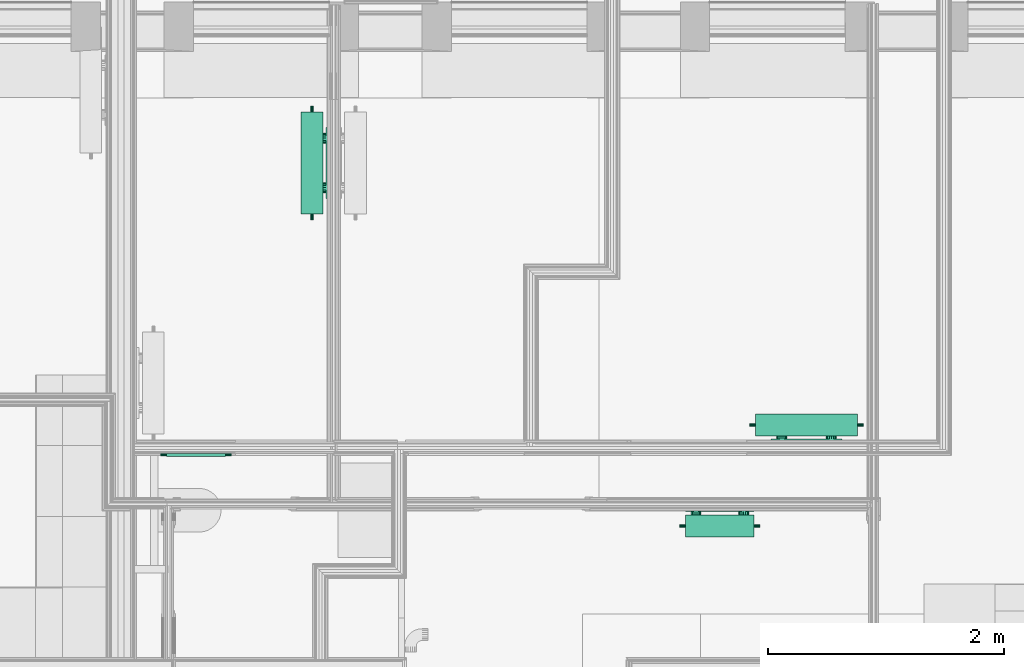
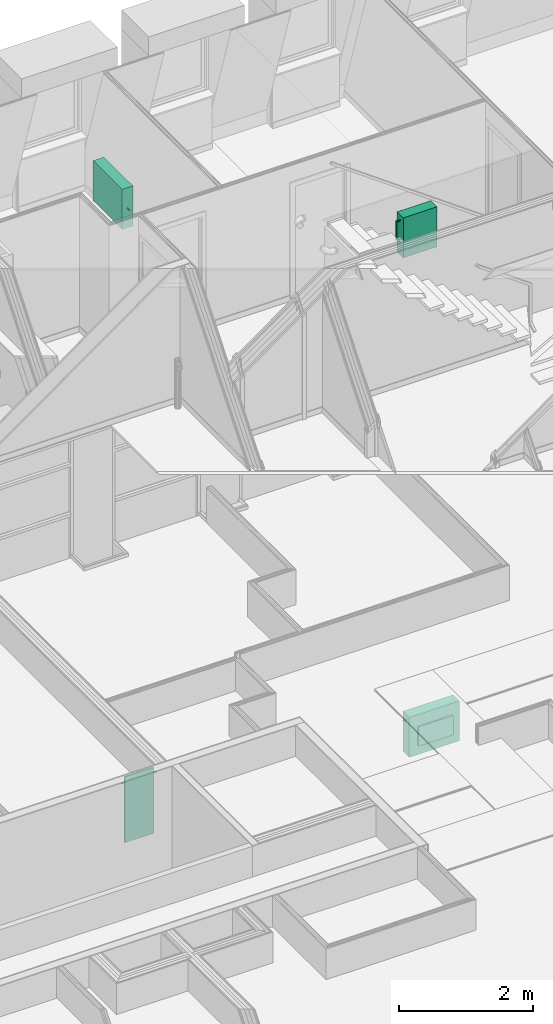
# One storey, part 153 of 169: 4 flow terminals.
"""IFC2X3 building model written with IfcOpenShell, lengths in metres."""

from ifc_helpers import new_model, entity, si_unit, converted_unit, derived_unit, money_unit, direction, frame, origin_with_axes, place, context, subcontext, project, spatial, open_shell, surface_model, material, type_object, element, save


model = new_model("IFC2X3")

# Units and contexts
model_context = context("Model", 3, precision=1e-05, world=origin_with_axes(), true_north=direction((0.0, 1.0)))
body_context = subcontext(model_context, "Body", "Model", "MODEL_VIEW", scale=1.0)
ifc_project = project(units=[si_unit("LENGTHUNIT", "METRE"), si_unit("AREAUNIT", "SQUARE_METRE"), si_unit("VOLUMEUNIT", "CUBIC_METRE"), si_unit("ABSORBEDDOSEUNIT", "GRAY"), si_unit("AMOUNTOFSUBSTANCEUNIT", "MOLE"), si_unit("DOSEEQUIVALENTUNIT", "SIEVERT"), si_unit("ELECTRICCAPACITANCEUNIT", "FARAD"), si_unit("ELECTRICCHARGEUNIT", "COULOMB"), si_unit("ELECTRICCONDUCTANCEUNIT", "SIEMENS"), si_unit("ELECTRICCURRENTUNIT", "AMPERE"), si_unit("ELECTRICRESISTANCEUNIT", "OHM"), si_unit("ELECTRICVOLTAGEUNIT", "VOLT"), si_unit("ENERGYUNIT", "JOULE"), si_unit("FORCEUNIT", "NEWTON"), si_unit("FREQUENCYUNIT", "HERTZ"), si_unit("ILLUMINANCEUNIT", "LUX"), si_unit("INDUCTANCEUNIT", "HENRY"), si_unit("LUMINOUSFLUXUNIT", "LUMEN"), si_unit("LUMINOUSINTENSITYUNIT", "CANDELA"), si_unit("MAGNETICFLUXDENSITYUNIT", "TESLA"), si_unit("MAGNETICFLUXUNIT", "WEBER"), si_unit("MASSUNIT", "GRAM"), converted_unit("PLANEANGLEUNIT", "degree", entity("IfcReal", 0.0174532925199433), si_unit("PLANEANGLEUNIT", "RADIAN"), dimensions=[0, 0, 0, 0, 0, 0, 0]), si_unit("POWERUNIT", "WATT"), si_unit("PRESSUREUNIT", "PASCAL"), si_unit("RADIOACTIVITYUNIT", "BECQUEREL"), si_unit("SOLIDANGLEUNIT", "STERADIAN"), si_unit("THERMODYNAMICTEMPERATUREUNIT", "KELVIN"), si_unit("TIMEUNIT", "SECOND"), derived_unit("ACCELERATIONUNIT", [(si_unit("LENGTHUNIT", "METRE"), 1), (si_unit("TIMEUNIT", "SECOND"), -2)]), derived_unit("ANGULARVELOCITYUNIT", [(converted_unit("PLANEANGLEUNIT", "degree", entity("IfcReal", 0.0174532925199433), si_unit("PLANEANGLEUNIT", "RADIAN"), dimensions=[0, 0, 0, 0, 0, 0, 0]), 1), (si_unit("TIMEUNIT", "SECOND"), -1)]), derived_unit("CURVATUREUNIT", [(converted_unit("PLANEANGLEUNIT", "degree", entity("IfcReal", 0.0174532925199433), si_unit("PLANEANGLEUNIT", "RADIAN"), dimensions=[0, 0, 0, 0, 0, 0, 0]), 1), (si_unit("LENGTHUNIT", "METRE"), -1)]), derived_unit("DYNAMICVISCOSITYUNIT", [(si_unit("PRESSUREUNIT", "PASCAL"), 1), (si_unit("TIMEUNIT", "SECOND"), 1)]), derived_unit("HEATFLUXDENSITYUNIT", [(si_unit("POWERUNIT", "WATT"), 1), (si_unit("LENGTHUNIT", "METRE"), -2)]), derived_unit("HEATINGVALUEUNIT", [(si_unit("ENERGYUNIT", "JOULE"), 1), (si_unit("MASSUNIT", "GRAM"), -1)]), derived_unit("INTEGERCOUNTRATEUNIT", [(si_unit("TIMEUNIT", "SECOND"), -1)]), derived_unit("IONCONCENTRATIONUNIT", [(si_unit("MASSUNIT", "GRAM"), 1), (si_unit("VOLUMEUNIT", "CUBIC_METRE"), -1)]), derived_unit("ISOTHERMALMOISTURECAPACITYUNIT", [(si_unit("VOLUMEUNIT", "CUBIC_METRE"), 1), (si_unit("MASSUNIT", "GRAM"), -1)]), derived_unit("KINEMATICVISCOSITYUNIT", [(si_unit("AREAUNIT", "SQUARE_METRE"), 1), (si_unit("TIMEUNIT", "SECOND"), -1)]), derived_unit("LINEARFORCEUNIT", [(si_unit("FORCEUNIT", "NEWTON"), 1), (si_unit("LENGTHUNIT", "METRE"), -1)]), derived_unit("LINEARMOMENTUNIT", [(si_unit("FORCEUNIT", "NEWTON"), 1), (si_unit("LENGTHUNIT", "METRE"), -1)]), derived_unit("LINEARSTIFFNESSUNIT", [(si_unit("FORCEUNIT", "NEWTON"), 1), (si_unit("LENGTHUNIT", "METRE"), -1)]), derived_unit("LINEARVELOCITYUNIT", [(si_unit("LENGTHUNIT", "METRE"), 1), (si_unit("TIMEUNIT", "SECOND"), -1)]), derived_unit("LUMINOUSINTENSITYDISTRIBUTIONUNIT", [(si_unit("LUMINOUSINTENSITYUNIT", "CANDELA"), 1), (si_unit("LUMINOUSFLUXUNIT", "LUMEN"), -1)]), derived_unit("MASSDENSITYUNIT", [(si_unit("MASSUNIT", "GRAM"), 1), (si_unit("VOLUMEUNIT", "CUBIC_METRE"), -1)]), derived_unit("MASSFLOWRATEUNIT", [(si_unit("MASSUNIT", "GRAM"), 1), (si_unit("TIMEUNIT", "SECOND"), -1)]), derived_unit("MASSPERLENGTHUNIT", [(si_unit("MASSUNIT", "GRAM"), 1), (si_unit("LENGTHUNIT", "METRE"), -1)]), derived_unit("MODULUSOFELASTICITYUNIT", [(si_unit("FORCEUNIT", "NEWTON"), 1), (si_unit("AREAUNIT", "SQUARE_METRE"), -1)]), derived_unit("MODULUSOFLINEARSUBGRADEREACTIONUNIT", [(si_unit("FORCEUNIT", "NEWTON"), 1), (si_unit("LENGTHUNIT", "METRE"), -2)]), derived_unit("MODULUSOFROTATIONALSUBGRADEREACTIONUNIT", [(si_unit("FORCEUNIT", "NEWTON"), 1), (si_unit("LENGTHUNIT", "METRE"), 1)]), derived_unit("MODULUSOFSUBGRADEREACTIONUNIT", [(si_unit("FORCEUNIT", "NEWTON"), 1), (si_unit("VOLUMEUNIT", "CUBIC_METRE"), -1)]), derived_unit("MOISTUREDIFFUSIVITYUNIT", [(si_unit("VOLUMEUNIT", "CUBIC_METRE"), 1), (si_unit("TIMEUNIT", "SECOND"), -1)]), derived_unit("MOLECULARWEIGHTUNIT", [(si_unit("MASSUNIT", "GRAM"), 1), (si_unit("AMOUNTOFSUBSTANCEUNIT", "MOLE"), -1)]), derived_unit("PLANARFORCEUNIT", [(si_unit("FORCEUNIT", "NEWTON"), 1), (si_unit("LENGTHUNIT", "METRE"), -2)]), derived_unit("ROTATIONALFREQUENCYUNIT", [(si_unit("TIMEUNIT", "SECOND"), -1)]), derived_unit("ROTATIONALMASSUNIT", [(si_unit("MASSUNIT", "GRAM"), 1), (si_unit("LENGTHUNIT", "METRE"), 2)]), derived_unit("ROTATIONALSTIFFNESSUNIT", [(si_unit("FORCEUNIT", "NEWTON"), 1), (si_unit("LENGTHUNIT", "METRE"), 1), (converted_unit("PLANEANGLEUNIT", "degree", entity("IfcReal", 0.0174532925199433), si_unit("PLANEANGLEUNIT", "RADIAN"), dimensions=[0, 0, 0, 0, 0, 0, 0]), -1)]), derived_unit("SECTIONAREAINTEGRALUNIT", [(si_unit("LENGTHUNIT", "METRE"), 5)]), derived_unit("SECTIONMODULUSUNIT", [(si_unit("LENGTHUNIT", "METRE"), 3)]), derived_unit("SHEARMODULUSUNIT", [(si_unit("FORCEUNIT", "NEWTON"), 1), (si_unit("AREAUNIT", "SQUARE_METRE"), -1)]), derived_unit("SOUNDPOWERUNIT", [(si_unit("ENERGYUNIT", "JOULE"), 1), (si_unit("TIMEUNIT", "SECOND"), -1)]), derived_unit("SPECIFICHEATCAPACITYUNIT", [(si_unit("FORCEUNIT", "NEWTON"), 1), (si_unit("MASSUNIT", "GRAM"), -1), (si_unit("THERMODYNAMICTEMPERATUREUNIT", "KELVIN"), -1)]), derived_unit("TEMPERATUREGRADIENTUNIT", [(si_unit("THERMODYNAMICTEMPERATUREUNIT", "KELVIN"), 1), (si_unit("LENGTHUNIT", "METRE"), -1)]), derived_unit("THERMALADMITTANCEUNIT", [(si_unit("POWERUNIT", "WATT"), 1), (si_unit("AREAUNIT", "SQUARE_METRE"), -1), (si_unit("THERMODYNAMICTEMPERATUREUNIT", "KELVIN"), -1)]), derived_unit("THERMALCONDUCTANCEUNIT", [(si_unit("POWERUNIT", "WATT"), 1), (si_unit("LENGTHUNIT", "METRE"), -1), (si_unit("THERMODYNAMICTEMPERATUREUNIT", "KELVIN"), -1)]), derived_unit("THERMALEXPANSIONCOEFFICIENTUNIT", [(si_unit("THERMODYNAMICTEMPERATUREUNIT", "KELVIN"), -1)]), derived_unit("THERMALRESISTANCEUNIT", [(si_unit("AREAUNIT", "SQUARE_METRE"), 1), (si_unit("POWERUNIT", "WATT"), -1)]), derived_unit("THERMALTRANSMITTANCEUNIT", [(si_unit("POWERUNIT", "WATT"), 1), (si_unit("AREAUNIT", "SQUARE_METRE"), -1), (si_unit("THERMODYNAMICTEMPERATUREUNIT", "KELVIN"), -1)]), derived_unit("TORQUEUNIT", [(si_unit("FORCEUNIT", "NEWTON"), 1), (si_unit("LENGTHUNIT", "METRE"), 1)]), derived_unit("VAPORPERMEABILITYUNIT", [(si_unit("MASSUNIT", "GRAM"), 1), (si_unit("TIMEUNIT", "SECOND"), -1)]), derived_unit("VOLUMETRICFLOWRATEUNIT", [(si_unit("VOLUMEUNIT", "CUBIC_METRE"), 1), (si_unit("TIMEUNIT", "SECOND"), -1)]), derived_unit("WARPINGCONSTANTUNIT", [(si_unit("LENGTHUNIT", "METRE"), 6)]), derived_unit("WARPINGMOMENTUNIT", [(si_unit("FORCEUNIT", "NEWTON"), 1), (si_unit("LENGTHUNIT", "METRE"), 2)]), money_unit("GBP")], contexts=[model_context])

# Site, building, storey, space
site_placement = place(None, origin_with_axes())
site = spatial("IfcSite", under=ifc_project, at=site_placement, Name="Site", CompositionType="ELEMENT")
building_placement = place(site_placement, origin_with_axes())
building = spatial("IfcBuilding", under=site, at=building_placement, Name="Building01", CompositionType="ELEMENT")
storey_placement = place(building_placement, frame((0.0, 0.0, 5.15), z_axis=(0.0, 0.0, 1.0), x_axis=(1.0, 0.0, 0.0)))
storey = spatial("IfcBuildingStorey", under=building, at=storey_placement, Name="1F", CompositionType="ELEMENT", Elevation=5.15)
space_1_placement = place(storey_placement, frame((15.83, 8.82, 0.017975), z_axis=(0.0, 0.0, 1.0), x_axis=(0.0, -1.0, 0.0)))
space_1 = spatial("IfcSpace", under=storey, at=space_1_placement, Name="02", CompositionType="ELEMENT", InteriorOrExteriorSpace="NOTDEFINED")

# Flow terminal
ifc_material = material(Name="M_BSUK_Ventilation")
space_heater_type_1 = type_object("IfcSpaceHeaterType", Name="M-BmvRadiatorpanel-Panel", PredefinedType="NOTDEFINED")
flow_terminal_1_placement = place(storey_placement, frame((21.844284, 10.81025, 0.665), z_axis=(0.0, 0.0, 1.0), x_axis=(-1.0, 0.0, 0.0)))
element("IfcFlowTerminal", 1, at=flow_terminal_1_placement, inside=space_1, type_object=space_heater_type_1, material=ifc_material, Name="M-BmvRadiatorpanel-Panel", ObjectType="M-BmvRadiatorpanel-Panel", context=body_context, shape_type="SurfaceModel", body=[
    surface_model("IfcShellBasedSurfaceModel", [(0.865, -0.0925, 0.365), (0.865, 0.0925, 0.365), (0.0, 0.0925, 0.365), (0.0, -0.0925, 0.365), (0.865, -0.0925, -0.365), (0.865, 0.0925, -0.365), (0.0, -0.0925, -0.365), (0.0, 0.0925, -0.365), (0.1325, 0.12025, 0.175), (0.7325, 0.12025, 0.175), (0.7325, 0.14525, 0.175), (0.1325, 0.14525, 0.175), (0.7325, 0.14525, -0.175), (0.1325, 0.14525, -0.175), (0.7325, 0.12025, -0.175), (0.1325, 0.12025, -0.175), (0.2225, 0.0925, 0.0775), (0.2225, 0.12025, 0.0775), (0.239721, 0.12025, 0.080925), (0.239721, 0.0925, 0.080925), (0.25432, 0.12025, 0.09068), (0.25432, 0.0925, 0.09068), (0.264075, 0.12025, 0.105279), (0.264075, 0.0925, 0.105279), (0.2675, 0.12025, 0.1225), (0.2675, 0.0925, 0.1225), (0.264075, 0.12025, 0.139721), (0.264075, 0.0925, 0.139721), (0.25432, 0.12025, 0.15432), (0.25432, 0.0925, 0.15432), (0.239721, 0.12025, 0.164075), (0.239721, 0.0925, 0.164075), (0.2225, 0.12025, 0.1675), (0.2225, 0.0925, 0.1675), (0.205279, 0.12025, 0.164075), (0.205279, 0.0925, 0.164075), (0.19068, 0.12025, 0.15432), (0.19068, 0.0925, 0.15432), (0.180925, 0.12025, 0.139721), (0.180925, 0.0925, 0.139721), (0.1775, 0.12025, 0.1225), (0.1775, 0.0925, 0.1225), (0.180925, 0.12025, 0.105279), (0.180925, 0.0925, 0.105279), (0.19068, 0.12025, 0.09068), (0.19068, 0.0925, 0.09068), (0.205279, 0.12025, 0.080925), (0.205279, 0.0925, 0.080925), (0.6425, 0.0925, 0.0775), (0.6425, 0.12025, 0.0775), (0.659721, 0.12025, 0.080925), (0.659721, 0.0925, 0.080925), (0.67432, 0.12025, 0.09068), (0.67432, 0.0925, 0.09068), (0.684075, 0.12025, 0.105279), (0.684075, 0.0925, 0.105279), (0.6875, 0.12025, 0.1225), (0.6875, 0.0925, 0.1225), (0.684075, 0.12025, 0.139721), (0.684075, 0.0925, 0.139721), (0.67432, 0.12025, 0.15432), (0.67432, 0.0925, 0.15432), (0.659721, 0.12025, 0.164075), (0.659721, 0.0925, 0.164075), (0.6425, 0.12025, 0.1675), (0.6425, 0.0925, 0.1675), (0.625279, 0.12025, 0.164075), (0.625279, 0.0925, 0.164075), (0.61068, 0.12025, 0.15432), (0.61068, 0.0925, 0.15432), (0.600925, 0.12025, 0.139721), (0.600925, 0.0925, 0.139721), (0.5975, 0.12025, 0.1225), (0.5975, 0.0925, 0.1225), (0.600925, 0.12025, 0.105279), (0.600925, 0.0925, 0.105279), (0.61068, 0.12025, 0.09068), (0.61068, 0.0925, 0.09068), (0.625279, 0.12025, 0.080925), (0.625279, 0.0925, 0.080925), (-0.05, 0.0, -0.0225), (0.0, 0.0, -0.0225), (0.0, -0.004784, -0.021548), (-0.05, -0.004784, -0.021548), (0.0, -0.008839, -0.018839), (-0.05, -0.008839, -0.018839), (0.0, -0.011548, -0.014784), (-0.05, -0.011548, -0.014784), (0.0, -0.0125, -0.01), (-0.05, -0.0125, -0.01), (0.0, -0.011548, -0.005216), (-0.05, -0.011548, -0.005216), (0.0, -0.008839, -0.001161), (-0.05, -0.008839, -0.001161), (0.0, -0.004784, 0.001548), (-0.05, -0.004784, 0.001548), (0.0, 0.0, 0.0025), (-0.05, 0.0, 0.0025), (0.0, 0.004784, 0.001548), (-0.05, 0.004784, 0.001548), (0.0, 0.008839, -0.001161), (-0.05, 0.008839, -0.001161), (0.0, 0.011548, -0.005216), (-0.05, 0.011548, -0.005216), (0.0, 0.0125, -0.01), (-0.05, 0.0125, -0.01), (0.0, 0.011548, -0.014784), (-0.05, 0.011548, -0.014784), (0.0, 0.008839, -0.018839), (-0.05, 0.008839, -0.018839), (0.0, 0.004784, -0.021548), (-0.05, 0.004784, -0.021548), (0.915, 0.0, 0.2525), (0.865, 0.0, 0.2525), (0.865, 0.004784, 0.253452), (0.915, 0.004784, 0.253452), (0.865, 0.008839, 0.256161), (0.915, 0.008839, 0.256161), (0.865, 0.011548, 0.260216), (0.915, 0.011548, 0.260216), (0.865, 0.0125, 0.265), (0.915, 0.0125, 0.265), (0.865, 0.011548, 0.269784), (0.915, 0.011548, 0.269784), (0.865, 0.008839, 0.273839), (0.915, 0.008839, 0.273839), (0.865, 0.004784, 0.276548), (0.915, 0.004784, 0.276548), (0.865, 0.0, 0.2775), (0.915, 0.0, 0.2775), (0.865, -0.004784, 0.276548), (0.915, -0.004784, 0.276548), (0.865, -0.008839, 0.273839), (0.915, -0.008839, 0.273839), (0.865, -0.011548, 0.269784), (0.915, -0.011548, 0.269784), (0.865, -0.0125, 0.265), (0.915, -0.0125, 0.265), (0.865, -0.011548, 0.260216), (0.915, -0.011548, 0.260216), (0.865, -0.008839, 0.256161), (0.915, -0.008839, 0.256161), (0.865, -0.004784, 0.253452), (0.915, -0.004784, 0.253452)], [open_shell([[[0, 1, 2, 3]], [[4, 5, 1, 0]], [[6, 7, 5, 4]], [[3, 2, 7, 6]], [[1, 5, 7, 2]], [[3, 6, 4, 0]], [[8, 9, 10, 11]], [[11, 10, 12, 13]], [[13, 12, 14, 15]], [[15, 14, 9, 8]], [[9, 14, 12, 10]], [[11, 13, 15, 8]], [[16, 17, 18, 19]], [[19, 18, 20, 21]], [[21, 20, 22, 23]], [[23, 22, 24, 25]], [[25, 24, 26, 27]], [[27, 26, 28, 29]], [[29, 28, 30, 31]], [[31, 30, 32, 33]], [[33, 32, 34, 35]], [[35, 34, 36, 37]], [[37, 36, 38, 39]], [[39, 38, 40, 41]], [[41, 40, 42, 43]], [[43, 42, 44, 45]], [[45, 44, 46, 47]], [[47, 46, 17, 16]], [[48, 49, 50, 51]], [[51, 50, 52, 53]], [[53, 52, 54, 55]], [[55, 54, 56, 57]], [[57, 56, 58, 59]], [[59, 58, 60, 61]], [[61, 60, 62, 63]], [[63, 62, 64, 65]], [[65, 64, 66, 67]], [[67, 66, 68, 69]], [[69, 68, 70, 71]], [[71, 70, 72, 73]], [[73, 72, 74, 75]], [[75, 74, 76, 77]], [[77, 76, 78, 79]], [[79, 78, 49, 48]], [[80, 81, 82, 83]], [[83, 82, 84, 85]], [[85, 84, 86, 87]], [[87, 86, 88, 89]], [[89, 88, 90, 91]], [[91, 90, 92, 93]], [[93, 92, 94, 95]], [[95, 94, 96, 97]], [[97, 96, 98, 99]], [[99, 98, 100, 101]], [[101, 100, 102, 103]], [[103, 102, 104, 105]], [[105, 104, 106, 107]], [[107, 106, 108, 109]], [[109, 108, 110, 111]], [[111, 110, 81, 80]], [[112, 113, 114, 115]], [[115, 114, 116, 117]], [[117, 116, 118, 119]], [[119, 118, 120, 121]], [[121, 120, 122, 123]], [[123, 122, 124, 125]], [[125, 124, 126, 127]], [[127, 126, 128, 129]], [[129, 128, 130, 131]], [[131, 130, 132, 133]], [[133, 132, 134, 135]], [[135, 134, 136, 137]], [[137, 136, 138, 139]], [[139, 138, 140, 141]], [[141, 140, 142, 143]], [[143, 142, 113, 112]]])]),
])

# Space
space_2_placement = place(storey_placement, frame((16.03844, 8.82, 9.86), z_axis=(0.0, 0.0, 1.0), x_axis=(0.0, -1.0, 0.0)))
space_2 = spatial("IfcSpace", under=storey, at=space_2_placement, Name="23", CompositionType="ELEMENT", InteriorOrExteriorSpace="NOTDEFINED")

# Flow terminals
flow_terminal_2_placement = place(storey_placement, frame((17.214726, 12.601764, 10.495), z_axis=(0.0, 0.0, 1.0), x_axis=(0.0, -1.0, 0.0)))
element("IfcFlowTerminal", 2, at=flow_terminal_2_placement, inside=space_2, type_object=space_heater_type_1, material=ifc_material, Name="M-BmvRadiatorpanel-Panel", ObjectType="M-BmvRadiatorpanel-Panel", context=body_context, shape_type="SurfaceModel", body=[
    surface_model("IfcShellBasedSurfaceModel", [(-0.865, -0.0925, 0.365), (-0.865, 0.0925, 0.365), (0.0, 0.0925, 0.365), (0.0, -0.0925, 0.365), (-0.865, -0.0925, -0.365), (-0.865, 0.0925, -0.365), (0.0, -0.0925, -0.365), (0.0, 0.0925, -0.365), (-0.1325, 0.12025, 0.175), (-0.7325, 0.12025, 0.175), (-0.7325, 0.14525, 0.175), (-0.1325, 0.14525, 0.175), (-0.7325, 0.14525, -0.175), (-0.1325, 0.14525, -0.175), (-0.7325, 0.12025, -0.175), (-0.1325, 0.12025, -0.175), (-0.2225, 0.0925, 0.0775), (-0.2225, 0.12025, 0.0775), (-0.205279, 0.12025, 0.080925), (-0.205279, 0.0925, 0.080925), (-0.19068, 0.12025, 0.09068), (-0.19068, 0.0925, 0.09068), (-0.180925, 0.12025, 0.105279), (-0.180925, 0.0925, 0.105279), (-0.1775, 0.12025, 0.1225), (-0.1775, 0.0925, 0.1225), (-0.180925, 0.12025, 0.139721), (-0.180925, 0.0925, 0.139721), (-0.19068, 0.12025, 0.15432), (-0.19068, 0.0925, 0.15432), (-0.205279, 0.12025, 0.164075), (-0.205279, 0.0925, 0.164075), (-0.2225, 0.12025, 0.1675), (-0.2225, 0.0925, 0.1675), (-0.239721, 0.12025, 0.164075), (-0.239721, 0.0925, 0.164075), (-0.25432, 0.12025, 0.15432), (-0.25432, 0.0925, 0.15432), (-0.264075, 0.12025, 0.139721), (-0.264075, 0.0925, 0.139721), (-0.2675, 0.12025, 0.1225), (-0.2675, 0.0925, 0.1225), (-0.264075, 0.12025, 0.105279), (-0.264075, 0.0925, 0.105279), (-0.25432, 0.12025, 0.09068), (-0.25432, 0.0925, 0.09068), (-0.239721, 0.12025, 0.080925), (-0.239721, 0.0925, 0.080925), (-0.6425, 0.0925, 0.0775), (-0.6425, 0.12025, 0.0775), (-0.625279, 0.12025, 0.080925), (-0.625279, 0.0925, 0.080925), (-0.61068, 0.12025, 0.09068), (-0.61068, 0.0925, 0.09068), (-0.600925, 0.12025, 0.105279), (-0.600925, 0.0925, 0.105279), (-0.5975, 0.12025, 0.1225), (-0.5975, 0.0925, 0.1225), (-0.600925, 0.12025, 0.139721), (-0.600925, 0.0925, 0.139721), (-0.61068, 0.12025, 0.15432), (-0.61068, 0.0925, 0.15432), (-0.625279, 0.12025, 0.164075), (-0.625279, 0.0925, 0.164075), (-0.6425, 0.12025, 0.1675), (-0.6425, 0.0925, 0.1675), (-0.659721, 0.12025, 0.164075), (-0.659721, 0.0925, 0.164075), (-0.67432, 0.12025, 0.15432), (-0.67432, 0.0925, 0.15432), (-0.684075, 0.12025, 0.139721), (-0.684075, 0.0925, 0.139721), (-0.6875, 0.12025, 0.1225), (-0.6875, 0.0925, 0.1225), (-0.684075, 0.12025, 0.105279), (-0.684075, 0.0925, 0.105279), (-0.67432, 0.12025, 0.09068), (-0.67432, 0.0925, 0.09068), (-0.659721, 0.12025, 0.080925), (-0.659721, 0.0925, 0.080925), (0.05, 0.0, -0.0225), (0.0, 0.0, -0.0225), (0.0, 0.004784, -0.021548), (0.05, 0.004784, -0.021548), (0.0, 0.008839, -0.018839), (0.05, 0.008839, -0.018839), (0.0, 0.011548, -0.014784), (0.05, 0.011548, -0.014784), (0.0, 0.0125, -0.01), (0.05, 0.0125, -0.01), (0.0, 0.011548, -0.005216), (0.05, 0.011548, -0.005216), (0.0, 0.008839, -0.001161), (0.05, 0.008839, -0.001161), (0.0, 0.004784, 0.001548), (0.05, 0.004784, 0.001548), (0.0, 0.0, 0.0025), (0.05, 0.0, 0.0025), (0.0, -0.004784, 0.001548), (0.05, -0.004784, 0.001548), (0.0, -0.008839, -0.001161), (0.05, -0.008839, -0.001161), (0.0, -0.011548, -0.005216), (0.05, -0.011548, -0.005216), (0.0, -0.0125, -0.01), (0.05, -0.0125, -0.01), (0.0, -0.011548, -0.014784), (0.05, -0.011548, -0.014784), (0.0, -0.008839, -0.018839), (0.05, -0.008839, -0.018839), (0.0, -0.004784, -0.021548), (0.05, -0.004784, -0.021548), (-0.915, 0.0, 0.2525), (-0.865, 0.0, 0.2525), (-0.865, -0.004784, 0.253452), (-0.915, -0.004784, 0.253452), (-0.865, -0.008839, 0.256161), (-0.915, -0.008839, 0.256161), (-0.865, -0.011548, 0.260216), (-0.915, -0.011548, 0.260216), (-0.865, -0.0125, 0.265), (-0.915, -0.0125, 0.265), (-0.865, -0.011548, 0.269784), (-0.915, -0.011548, 0.269784), (-0.865, -0.008839, 0.273839), (-0.915, -0.008839, 0.273839), (-0.865, -0.004784, 0.276548), (-0.915, -0.004784, 0.276548), (-0.865, 0.0, 0.2775), (-0.915, 0.0, 0.2775), (-0.865, 0.004784, 0.276548), (-0.915, 0.004784, 0.276548), (-0.865, 0.008839, 0.273839), (-0.915, 0.008839, 0.273839), (-0.865, 0.011548, 0.269784), (-0.915, 0.011548, 0.269784), (-0.865, 0.0125, 0.265), (-0.915, 0.0125, 0.265), (-0.865, 0.011548, 0.260216), (-0.915, 0.011548, 0.260216), (-0.865, 0.008839, 0.256161), (-0.915, 0.008839, 0.256161), (-0.865, 0.004784, 0.253452), (-0.915, 0.004784, 0.253452)], [open_shell([[[0, 1, 2, 3]], [[4, 5, 1, 0]], [[6, 7, 5, 4]], [[3, 2, 7, 6]], [[1, 5, 7, 2]], [[3, 6, 4, 0]], [[8, 9, 10, 11]], [[11, 10, 12, 13]], [[13, 12, 14, 15]], [[15, 14, 9, 8]], [[9, 14, 12, 10]], [[11, 13, 15, 8]], [[16, 17, 18, 19]], [[19, 18, 20, 21]], [[21, 20, 22, 23]], [[23, 22, 24, 25]], [[25, 24, 26, 27]], [[27, 26, 28, 29]], [[29, 28, 30, 31]], [[31, 30, 32, 33]], [[33, 32, 34, 35]], [[35, 34, 36, 37]], [[37, 36, 38, 39]], [[39, 38, 40, 41]], [[41, 40, 42, 43]], [[43, 42, 44, 45]], [[45, 44, 46, 47]], [[47, 46, 17, 16]], [[48, 49, 50, 51]], [[51, 50, 52, 53]], [[53, 52, 54, 55]], [[55, 54, 56, 57]], [[57, 56, 58, 59]], [[59, 58, 60, 61]], [[61, 60, 62, 63]], [[63, 62, 64, 65]], [[65, 64, 66, 67]], [[67, 66, 68, 69]], [[69, 68, 70, 71]], [[71, 70, 72, 73]], [[73, 72, 74, 75]], [[75, 74, 76, 77]], [[77, 76, 78, 79]], [[79, 78, 49, 48]], [[80, 81, 82, 83]], [[83, 82, 84, 85]], [[85, 84, 86, 87]], [[87, 86, 88, 89]], [[89, 88, 90, 91]], [[91, 90, 92, 93]], [[93, 92, 94, 95]], [[95, 94, 96, 97]], [[97, 96, 98, 99]], [[99, 98, 100, 101]], [[101, 100, 102, 103]], [[103, 102, 104, 105]], [[105, 104, 106, 107]], [[107, 106, 108, 109]], [[109, 108, 110, 111]], [[111, 110, 81, 80]], [[112, 113, 114, 115]], [[115, 114, 116, 117]], [[117, 116, 118, 119]], [[119, 118, 120, 121]], [[121, 120, 122, 123]], [[123, 122, 124, 125]], [[125, 124, 126, 127]], [[127, 126, 128, 129]], [[129, 128, 130, 131]], [[131, 130, 132, 133]], [[133, 132, 134, 135]], [[135, 134, 136, 137]], [[137, 136, 138, 139]], [[139, 138, 140, 141]], [[141, 140, 142, 143]], [[143, 142, 113, 112]]])]),
])
flow_terminal_3_placement = place(storey_placement, frame((20.965544, 9.954689, 10.495), z_axis=(0.0, 0.0, 1.0), x_axis=(1.0, 0.0, 0.0)))
element("IfcFlowTerminal", 3, at=flow_terminal_3_placement, inside=space_2, type_object=space_heater_type_1, material=ifc_material, Name="M-BmvRadiatorpanel-Panel", ObjectType="M-BmvRadiatorpanel-Panel", context=body_context, shape_type="SurfaceModel", body=[
    surface_model("IfcShellBasedSurfaceModel", [(-0.58, -0.0925, 0.365), (-0.58, 0.0925, 0.365), (0.0, 0.0925, 0.365), (0.0, -0.0925, 0.365), (-0.58, -0.0925, -0.365), (-0.58, 0.0925, -0.365), (0.0, -0.0925, -0.365), (0.0, 0.0925, -0.365), (0.0, 0.12025, 0.175), (-0.58, 0.12025, 0.175), (-0.58, 0.14525, 0.175), (0.0, 0.14525, 0.175), (-0.58, 0.14525, -0.175), (0.0, 0.14525, -0.175), (-0.58, 0.12025, -0.175), (0.0, 0.12025, -0.175), (-0.087, 0.0925, 0.079), (-0.087, 0.12025, 0.079), (-0.070353, 0.12025, 0.082311), (-0.070353, 0.0925, 0.082311), (-0.056241, 0.12025, 0.091741), (-0.056241, 0.0925, 0.091741), (-0.046811, 0.12025, 0.105853), (-0.046811, 0.0925, 0.105853), (-0.0435, 0.12025, 0.1225), (-0.0435, 0.0925, 0.1225), (-0.046811, 0.12025, 0.139147), (-0.046811, 0.0925, 0.139147), (-0.056241, 0.12025, 0.153259), (-0.056241, 0.0925, 0.153259), (-0.070353, 0.12025, 0.162689), (-0.070353, 0.0925, 0.162689), (-0.087, 0.12025, 0.166), (-0.087, 0.0925, 0.166), (-0.103647, 0.12025, 0.162689), (-0.103647, 0.0925, 0.162689), (-0.117759, 0.12025, 0.153259), (-0.117759, 0.0925, 0.153259), (-0.127189, 0.12025, 0.139147), (-0.127189, 0.0925, 0.139147), (-0.1305, 0.12025, 0.1225), (-0.1305, 0.0925, 0.1225), (-0.127189, 0.12025, 0.105853), (-0.127189, 0.0925, 0.105853), (-0.117759, 0.12025, 0.091741), (-0.117759, 0.0925, 0.091741), (-0.103647, 0.12025, 0.082311), (-0.103647, 0.0925, 0.082311), (-0.493, 0.0925, 0.079), (-0.493, 0.12025, 0.079), (-0.476353, 0.12025, 0.082311), (-0.476353, 0.0925, 0.082311), (-0.462241, 0.12025, 0.091741), (-0.462241, 0.0925, 0.091741), (-0.452811, 0.12025, 0.105853), (-0.452811, 0.0925, 0.105853), (-0.4495, 0.12025, 0.1225), (-0.4495, 0.0925, 0.1225), (-0.452811, 0.12025, 0.139147), (-0.452811, 0.0925, 0.139147), (-0.462241, 0.12025, 0.153259), (-0.462241, 0.0925, 0.153259), (-0.476353, 0.12025, 0.162689), (-0.476353, 0.0925, 0.162689), (-0.493, 0.12025, 0.166), (-0.493, 0.0925, 0.166), (-0.509647, 0.12025, 0.162689), (-0.509647, 0.0925, 0.162689), (-0.523759, 0.12025, 0.153259), (-0.523759, 0.0925, 0.153259), (-0.533189, 0.12025, 0.139147), (-0.533189, 0.0925, 0.139147), (-0.5365, 0.12025, 0.1225), (-0.5365, 0.0925, 0.1225), (-0.533189, 0.12025, 0.105853), (-0.533189, 0.0925, 0.105853), (-0.523759, 0.12025, 0.091741), (-0.523759, 0.0925, 0.091741), (-0.509647, 0.12025, 0.082311), (-0.509647, 0.0925, 0.082311), (0.05, 0.0, -0.0225), (0.0, 0.0, -0.0225), (0.0, 0.004784, -0.021548), (0.05, 0.004784, -0.021548), (0.0, 0.008839, -0.018839), (0.05, 0.008839, -0.018839), (0.0, 0.011548, -0.014784), (0.05, 0.011548, -0.014784), (0.0, 0.0125, -0.01), (0.05, 0.0125, -0.01), (0.0, 0.011548, -0.005216), (0.05, 0.011548, -0.005216), (0.0, 0.008839, -0.001161), (0.05, 0.008839, -0.001161), (0.0, 0.004784, 0.001548), (0.05, 0.004784, 0.001548), (0.0, 0.0, 0.0025), (0.05, 0.0, 0.0025), (0.0, -0.004784, 0.001548), (0.05, -0.004784, 0.001548), (0.0, -0.008839, -0.001161), (0.05, -0.008839, -0.001161), (0.0, -0.011548, -0.005216), (0.05, -0.011548, -0.005216), (0.0, -0.0125, -0.01), (0.05, -0.0125, -0.01), (0.0, -0.011548, -0.014784), (0.05, -0.011548, -0.014784), (0.0, -0.008839, -0.018839), (0.05, -0.008839, -0.018839), (0.0, -0.004784, -0.021548), (0.05, -0.004784, -0.021548), (-0.63, 0.0, 0.2525), (-0.58, 0.0, 0.2525), (-0.58, -0.004784, 0.253452), (-0.63, -0.004784, 0.253452), (-0.58, -0.008839, 0.256161), (-0.63, -0.008839, 0.256161), (-0.58, -0.011548, 0.260216), (-0.63, -0.011548, 0.260216), (-0.58, -0.0125, 0.265), (-0.63, -0.0125, 0.265), (-0.58, -0.011548, 0.269784), (-0.63, -0.011548, 0.269784), (-0.58, -0.008839, 0.273839), (-0.63, -0.008839, 0.273839), (-0.58, -0.004784, 0.276548), (-0.63, -0.004784, 0.276548), (-0.58, 0.0, 0.2775), (-0.63, 0.0, 0.2775), (-0.58, 0.004784, 0.276548), (-0.63, 0.004784, 0.276548), (-0.58, 0.008839, 0.273839), (-0.63, 0.008839, 0.273839), (-0.58, 0.011548, 0.269784), (-0.63, 0.011548, 0.269784), (-0.58, 0.0125, 0.265), (-0.63, 0.0125, 0.265), (-0.58, 0.011548, 0.260216), (-0.63, 0.011548, 0.260216), (-0.58, 0.008839, 0.256161), (-0.63, 0.008839, 0.256161), (-0.58, 0.004784, 0.253452), (-0.63, 0.004784, 0.253452)], [open_shell([[[0, 1, 2, 3]], [[4, 5, 1, 0]], [[6, 7, 5, 4]], [[3, 2, 7, 6]], [[1, 5, 7, 2]], [[3, 6, 4, 0]], [[8, 9, 10, 11]], [[11, 10, 12, 13]], [[13, 12, 14, 15]], [[15, 14, 9, 8]], [[9, 14, 12, 10]], [[11, 13, 15, 8]], [[16, 17, 18, 19]], [[19, 18, 20, 21]], [[21, 20, 22, 23]], [[23, 22, 24, 25]], [[25, 24, 26, 27]], [[27, 26, 28, 29]], [[29, 28, 30, 31]], [[31, 30, 32, 33]], [[33, 32, 34, 35]], [[35, 34, 36, 37]], [[37, 36, 38, 39]], [[39, 38, 40, 41]], [[41, 40, 42, 43]], [[43, 42, 44, 45]], [[45, 44, 46, 47]], [[47, 46, 17, 16]], [[48, 49, 50, 51]], [[51, 50, 52, 53]], [[53, 52, 54, 55]], [[55, 54, 56, 57]], [[57, 56, 58, 59]], [[59, 58, 60, 61]], [[61, 60, 62, 63]], [[63, 62, 64, 65]], [[65, 64, 66, 67]], [[67, 66, 68, 69]], [[69, 68, 70, 71]], [[71, 70, 72, 73]], [[73, 72, 74, 75]], [[75, 74, 76, 77]], [[77, 76, 78, 79]], [[79, 78, 49, 48]], [[80, 81, 82, 83]], [[83, 82, 84, 85]], [[85, 84, 86, 87]], [[87, 86, 88, 89]], [[89, 88, 90, 91]], [[91, 90, 92, 93]], [[93, 92, 94, 95]], [[95, 94, 96, 97]], [[97, 96, 98, 99]], [[99, 98, 100, 101]], [[101, 100, 102, 103]], [[103, 102, 104, 105]], [[105, 104, 106, 107]], [[107, 106, 108, 109]], [[109, 108, 110, 111]], [[111, 110, 81, 80]], [[112, 113, 114, 115]], [[115, 114, 116, 117]], [[117, 116, 118, 119]], [[119, 118, 120, 121]], [[121, 120, 122, 123]], [[123, 122, 124, 125]], [[125, 124, 126, 127]], [[127, 126, 128, 129]], [[129, 128, 130, 131]], [[131, 130, 132, 133]], [[133, 132, 134, 135]], [[135, 134, 136, 137]], [[137, 136, 138, 139]], [[139, 138, 140, 141]], [[141, 140, 142, 143]], [[143, 142, 113, 112]]])]),
])

# Space
space_3_placement = place(storey_placement, frame((15.708132, 10.57, 0.017975), z_axis=(0.0, 0.0, 1.0), x_axis=(0.0, -1.0, 0.0)))
space_3 = spatial("IfcSpace", under=storey, at=space_3_placement, Name="ensuite", CompositionType="ELEMENT", InteriorOrExteriorSpace="NOTDEFINED")

# Flow terminal
space_heater_type_2 = type_object("IfcSpaceHeaterType", Name="M-BmvRadiator-Column", PredefinedType="NOTDEFINED")
flow_terminal_4_placement = place(storey_placement, frame((15.979895, 10.5575, 1.2), z_axis=(0.0, 0.0, 1.0), x_axis=(-1.0, 0.0, 0.0)))
element("IfcFlowTerminal", 4, at=flow_terminal_4_placement, inside=space_3, type_object=space_heater_type_2, material=ifc_material, Name="M-BmvRadiator-Column", ObjectType="M-BmvRadiator-Column", context=body_context, shape_type="SurfaceModel", body=[
    surface_model("IfcShellBasedSurfaceModel", [(0.0, -0.0125, 0.6), (0.0, -0.0125, -0.6), (0.0, 0.0125, -0.6), (0.0, 0.0125, 0.6), (-0.5, -0.0125, 0.6), (-0.5, -0.0125, -0.6), (-0.5, 0.0125, -0.6), (-0.5, 0.0125, 0.6), (-0.1, 0.0125, 0.6), (-0.1, -0.0125, 0.6), (-0.1, -0.0125, -0.6), (-0.1, 0.0125, -0.6), (-0.2, 0.0125, 0.6), (-0.2, -0.0125, 0.6), (-0.2, -0.0125, -0.6), (-0.2, 0.0125, -0.6), (-0.3, 0.0125, 0.6), (-0.3, -0.0125, 0.6), (-0.3, -0.0125, -0.6), (-0.3, 0.0125, -0.6), (-0.4, 0.0125, 0.6), (-0.4, -0.0125, 0.6), (-0.4, -0.0125, -0.6), (-0.4, 0.0125, -0.6), (0.05, 0.0, 0.4825), (0.0, 0.0, 0.4825), (0.0, 0.003827, 0.483261), (0.05, 0.003827, 0.483261), (0.0, 0.007071, 0.485429), (0.05, 0.007071, 0.485429), (0.0, 0.009239, 0.488673), (0.05, 0.009239, 0.488673), (0.0, 0.01, 0.4925), (0.05, 0.01, 0.4925), (0.0, 0.009239, 0.496327), (0.05, 0.009239, 0.496327), (0.0, 0.007071, 0.499571), (0.05, 0.007071, 0.499571), (0.0, 0.003827, 0.501739), (0.05, 0.003827, 0.501739), (0.0, 0.0, 0.5025), (0.05, 0.0, 0.5025), (0.0, -0.003827, 0.501739), (0.05, -0.003827, 0.501739), (0.0, -0.007071, 0.499571), (0.05, -0.007071, 0.499571), (0.0, -0.009239, 0.496327), (0.05, -0.009239, 0.496327), (0.0, -0.01, 0.4925), (0.05, -0.01, 0.4925), (0.0, -0.009239, 0.488673), (0.05, -0.009239, 0.488673), (0.0, -0.007071, 0.485429), (0.05, -0.007071, 0.485429), (0.0, -0.003827, 0.483261), (0.05, -0.003827, 0.483261), (-0.55, 0.0, 0.4884), (-0.5, 0.0, 0.4884), (-0.5, -0.003827, 0.489161), (-0.55, -0.003827, 0.489161), (-0.5, -0.007071, 0.491329), (-0.55, -0.007071, 0.491329), (-0.5, -0.009239, 0.494573), (-0.55, -0.009239, 0.494573), (-0.5, -0.01, 0.4984), (-0.55, -0.01, 0.4984), (-0.5, -0.009239, 0.502227), (-0.55, -0.009239, 0.502227), (-0.5, -0.007071, 0.505471), (-0.55, -0.007071, 0.505471), (-0.5, -0.003827, 0.507639), (-0.55, -0.003827, 0.507639), (-0.5, 0.0, 0.5084), (-0.55, 0.0, 0.5084), (-0.5, 0.003827, 0.507639), (-0.55, 0.003827, 0.507639), (-0.5, 0.007071, 0.505471), (-0.55, 0.007071, 0.505471), (-0.5, 0.009239, 0.502227), (-0.55, 0.009239, 0.502227), (-0.5, 0.01, 0.4984), (-0.55, 0.01, 0.4984), (-0.5, 0.009239, 0.494573), (-0.55, 0.009239, 0.494573), (-0.5, 0.007071, 0.491329), (-0.55, 0.007071, 0.491329), (-0.5, 0.003827, 0.489161), (-0.55, 0.003827, 0.489161)], [open_shell([[[0, 1, 2, 3]], [[4, 5, 6, 7]], [[8, 3, 0, 9]], [[9, 0, 1, 10]], [[10, 1, 2, 11]], [[11, 2, 3, 8]], [[12, 8, 9, 13]], [[13, 9, 10, 14]], [[14, 10, 11, 15]], [[15, 11, 8, 12]], [[16, 12, 13, 17]], [[17, 13, 14, 18]], [[18, 14, 15, 19]], [[19, 15, 12, 16]], [[20, 16, 17, 21]], [[21, 17, 18, 22]], [[22, 18, 19, 23]], [[23, 19, 16, 20]], [[7, 20, 21, 4]], [[4, 21, 22, 5]], [[5, 22, 23, 6]], [[6, 23, 20, 7]], [[24, 25, 26, 27]], [[27, 26, 28, 29]], [[29, 28, 30, 31]], [[31, 30, 32, 33]], [[33, 32, 34, 35]], [[35, 34, 36, 37]], [[37, 36, 38, 39]], [[39, 38, 40, 41]], [[41, 40, 42, 43]], [[43, 42, 44, 45]], [[45, 44, 46, 47]], [[47, 46, 48, 49]], [[49, 48, 50, 51]], [[51, 50, 52, 53]], [[53, 52, 54, 55]], [[55, 54, 25, 24]], [[56, 57, 58, 59]], [[59, 58, 60, 61]], [[61, 60, 62, 63]], [[63, 62, 64, 65]], [[65, 64, 66, 67]], [[67, 66, 68, 69]], [[69, 68, 70, 71]], [[71, 70, 72, 73]], [[73, 72, 74, 75]], [[75, 74, 76, 77]], [[77, 76, 78, 79]], [[79, 78, 80, 81]], [[81, 80, 82, 83]], [[83, 82, 84, 85]], [[85, 84, 86, 87]], [[87, 86, 57, 56]]])]),
])

save(model, "model.ifc")
